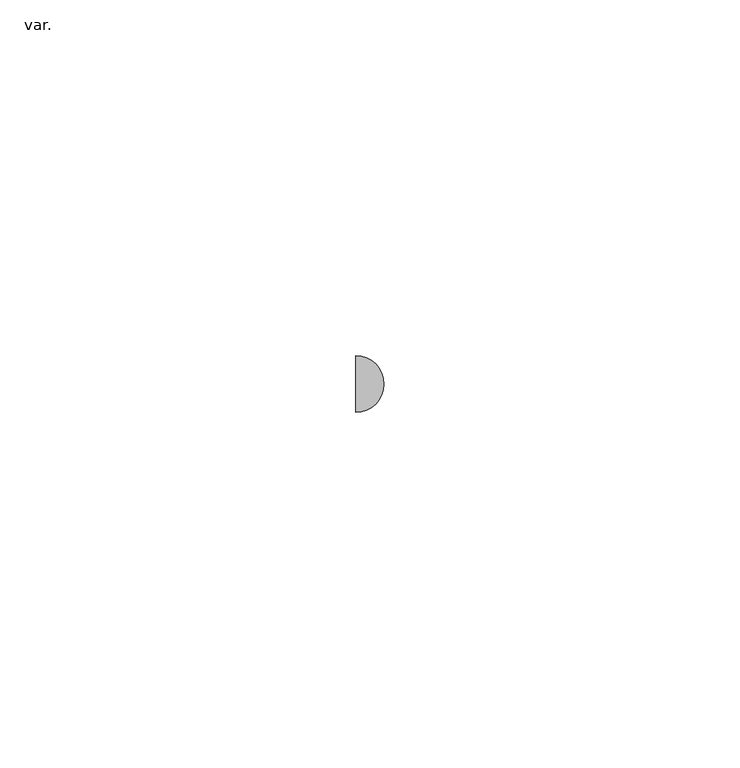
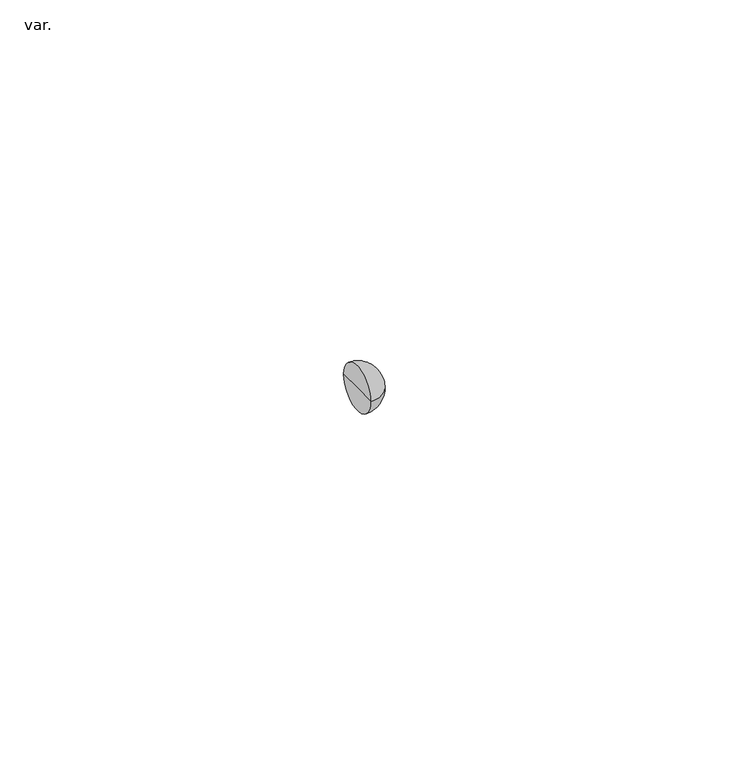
"""IFC4 building model written with IfcOpenShell, lengths in millimetres: pipe fitting geometry, NLRS_52_PIF_UN_Vacurain Flex multi reducer_Dyka : var.."""

from ifc_helpers import new_model, si_unit, point, frame, origin, origin_with_axes, place, context, project, spatial, circle_curve, ellipse_curve, trimmed, source, transform, mapped, element, save
from ifc_brep_helpers import plane_surface, revolved_surface, advanced_brep


def var_fa9adf68(model_context):
    return source(origin(), model_context, "Body", "AdvancedBrep", [
        advanced_brep(
        [(0.0, -4.0, 0.0), (0.0, 4.0, 0.0), (4.0, 0.0, 0.0), (0.0, 0.0, 0.0)],
        [
            (0, 1, circle_curve(frame((0.0, 0.0, 0.0), z_axis=(1.0, 0.0, 0.0), x_axis=(0.0, 1.0, 0.0)), 4.0)),
            (1, 2, circle_curve(frame((0.0, 0.0, 0.0), z_axis=(0.0, 0.0, -1.0), x_axis=(1.0, 0.0, 0.0)), 4.0)),
            (2, 0, circle_curve(frame((0.0, 0.0, 0.0), z_axis=(0.0, 0.0, -1.0), x_axis=(1.0, 0.0, 0.0)), 4.0)),
            (1, 0, circle_curve(frame((0.0, 0.0, 0.0), z_axis=(1.0, 0.0, 0.0), x_axis=(0.0, 1.0, 0.0)), 4.0)),
            (3, 1),
            (0, 3),
        ],
        [
            revolved_surface(trimmed(ellipse_curve(origin_with_axes(), 4.0, 4.0), [point((4.0, 0.0, 0.0))], [point((0.0, 4.0, 0.0))], True, "CARTESIAN"), (-1.1610143, 0.0, 0.0), (-1.0, 0.0, 0.0)),
            plane_surface(frame((0.0, 0.0, 0.0), z_axis=(-1.0, 0.0, 0.0), x_axis=(0.0, 1.0, 0.0))),
        ],
        [
            (0, [[1, 2, 3]]),
            (0, [[4, -3, -2]]),
            (1, [[5, -1, 6]]),
            (1, [[-6, -4, -5]]),
        ],
    ),
    ])


if __name__ == "__main__":
    model = new_model("IFC4")
    model_context = context("Model", 3, world=origin())
    ifc_project = project(units=[si_unit("LENGTHUNIT", "METRE", prefix="MILLI")], contexts=[model_context])
    site = spatial("IfcSite", under=ifc_project)
    building = spatial("IfcBuilding", under=site)
    placement = place(None, origin())
    var_shape = var_fa9adf68(model_context)
    element("IfcPipeFitting", 1, ObjectType="NLRS_52_PIF_UN_Vacurain Flex multi reducer_Dyka : var.", at=placement, inside=building, context=model_context, shape_type="MappedRepresentation", body=[
        mapped(var_shape, transform((0.0, 0.0, 0.0), x_axis=(1.0, 0.0, 0.0), y_axis=(0.0, 1.0, 0.0), z_axis=(0.0, 0.0, 1.0))),
    ])
    save(model, "model.ifc")
